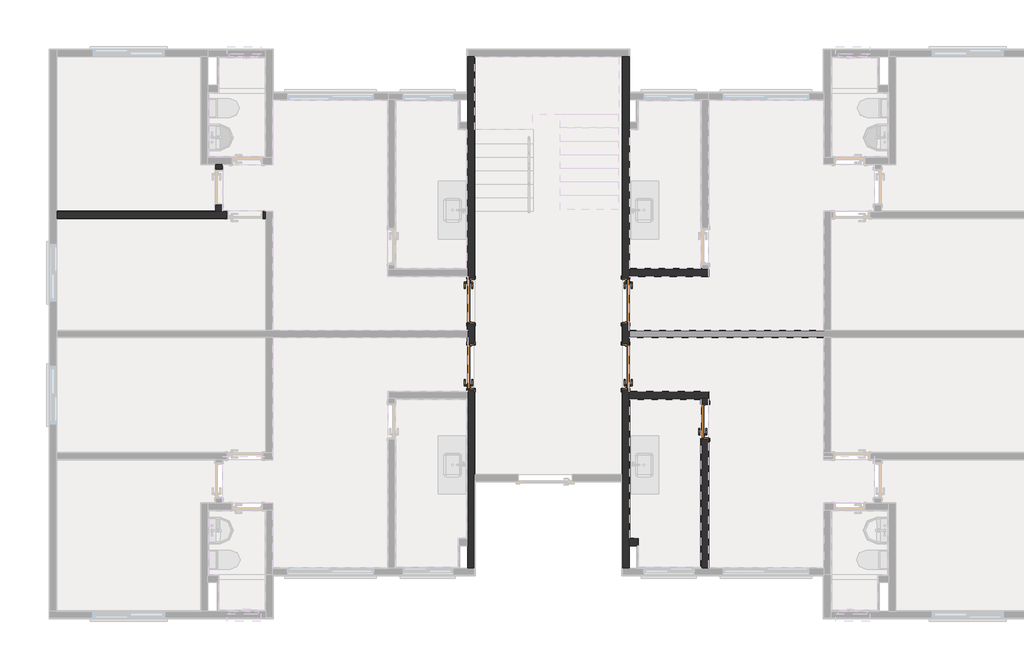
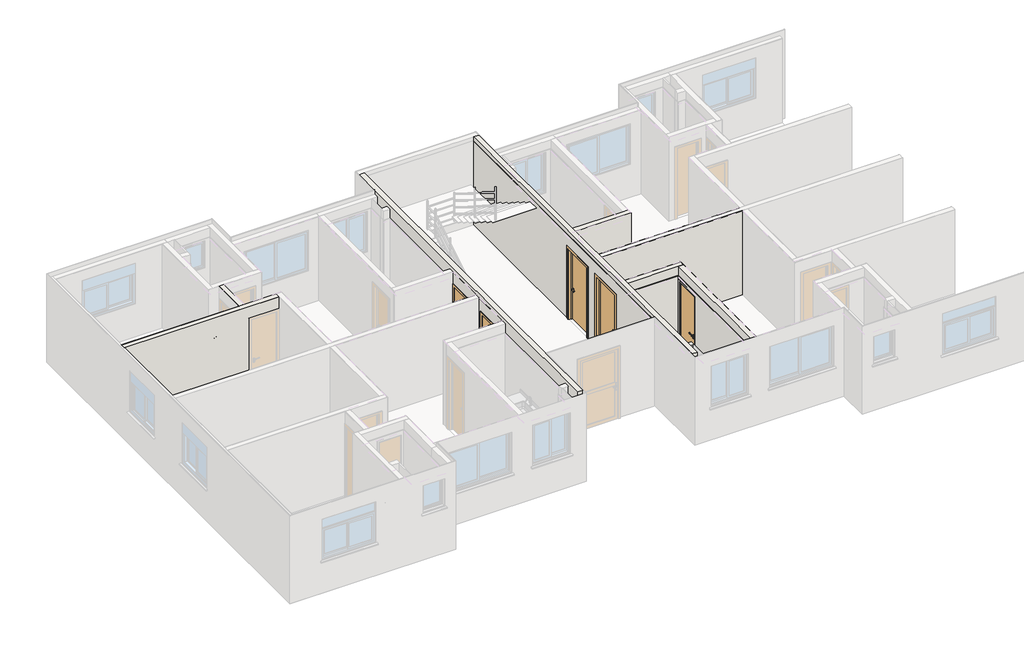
# One storey, part 4 of 11: 27 walls, 5 doors.
"""IFC4 building model written with IfcOpenShell, lengths in millimetres."""

from ifc_helpers import new_model, si_unit, frame, origin, origin_with_axes, place, context, project, spatial, polyline, outline, extrude, faceted_brep, transform, mapped, element, save
from components import porta_de_madeira_interna_70_x_210_porta_de_madeira_interna_d0067c94, porta_de_madeira_interna_90x210_porta_de_madeira_interna_90_f8e7363e, porta_de_madeira_interna_90x210_porta_de_madeira_interna_90_f331fdd0

model = new_model("IFC4")

# Units and contexts
model_context = context("Model", 3, world=origin())
ifc_project = project(units=[si_unit("LENGTHUNIT", "METRE", prefix="MILLI")], contexts=[model_context])

# Site, building, storey
site = spatial("IfcSite", under=ifc_project)
building = spatial("IfcBuilding", under=site)
storey = spatial("IfcBuildingStorey", under=building, Name="Térreo", Elevation=0.0)

# Doors
placement = place(None, origin())
porta_de_madeira_interna_70_x_210_porta_de_madeira_interna_shape = porta_de_madeira_interna_70_x_210_porta_de_madeira_interna_d0067c94(model_context)
element("IfcDoor", 1, ObjectType="Porta de Madeira Interna 70 x 210 : Porta de Madeira Interna 70 x 210", at=placement, inside=storey, context=model_context, shape_type="MappedRepresentation", body=[
    mapped(porta_de_madeira_interna_70_x_210_porta_de_madeira_interna_shape, transform((13673.8210213, 4578.6603139, 0.0), x_axis=(0.0, 1.0, 0.0), y_axis=(-1.0, 0.0, 0.0), z_axis=(0.0, 0.0, 1.0))),
])
porta_de_madeira_interna_90x210_porta_de_madeira_interna_90_shape = porta_de_madeira_interna_90x210_porta_de_madeira_interna_90_f8e7363e(model_context)
element("IfcDoor", 2, ObjectType="Porta de Madeira Interna 90x210 : Porta de Madeira Interna 90 x 210", at=placement, inside=storey, context=model_context, shape_type="MappedRepresentation", body=[
    mapped(porta_de_madeira_interna_90x210_porta_de_madeira_interna_90_shape, transform((8796.8213008, 7085.0103139, 0.0), x_axis=(0.0, -1.0, 0.0), y_axis=(1.0, 0.0, 0.0), z_axis=(0.0, 0.0, 1.0))),
])
element("IfcDoor", 3, ObjectType="Porta de Madeira Interna 90x210 : Porta de Madeira Interna 90 x 210", at=placement, inside=storey, context=model_context, shape_type="MappedRepresentation", body=[
    mapped(porta_de_madeira_interna_90x210_porta_de_madeira_interna_90_shape, transform((12023.1734066, 5715.0103139, 0.0), x_axis=(0.0, 1.0, 0.0), y_axis=(-1.0, 0.0, 0.0), z_axis=(0.0, 0.0, 1.0))),
])
porta_de_madeira_interna_90x210_porta_de_madeira_interna_90_2_shape = porta_de_madeira_interna_90x210_porta_de_madeira_interna_90_f331fdd0(model_context)
element("IfcDoor", 4, ObjectType="Porta de Madeira Interna 90x210 : Porta de Madeira Interna 90 x 210", at=placement, inside=storey, context=model_context, shape_type="MappedRepresentation", body=[
    mapped(porta_de_madeira_interna_90x210_porta_de_madeira_interna_90_2_shape, transform((8796.8213008, 5715.0103139, 0.0), x_axis=(0.0, 1.0, 0.0), y_axis=(-1.0, 0.0, 0.0), z_axis=(0.0, 0.0, 1.0))),
])
element("IfcDoor", 5, ObjectType="Porta de Madeira Interna 90x210 : Porta de Madeira Interna 90 x 210", at=placement, inside=storey, context=model_context, shape_type="MappedRepresentation", body=[
    mapped(porta_de_madeira_interna_90x210_porta_de_madeira_interna_90_2_shape, transform((12023.1734066, 7085.0103139, 0.0), x_axis=(0.0, -1.0, 0.0), y_axis=(1.0, 0.0, 0.0), z_axis=(0.0, 0.0, 1.0))),
])

# Walls
element("IfcWall", 6, ObjectType="Alvenaria Estrutural", at=placement, inside=storey, context=model_context, shape_type="Brep", body=[
    faceted_brep([(3619.9980641, 9930.0238664, 2510.0), (3619.9980641, 9924.0238664, 2510.0), (3619.9980641, 8956.0244803, 2510.0), (3619.9980641, 8950.0244803, 2510.0), (3619.9980641, 8950.0244803, 0.0), (3619.9980641, 8956.0244803, 0.0), (3619.9980641, 9082.0248023, 0.0), (3619.9980641, 9082.0248023, 2125.0), (3619.9980641, 9832.0248023, 2125.0), (3619.9980641, 9832.0248023, 0.0), (3619.9980641, 9924.0238664, 0.0), (3619.9980641, 9930.0238664, 0.0), (3479.9980641, 8950.0244803, 2510.0), (3479.9980641, 9924.0238664, 2510.0), (3479.9980641, 9930.0238664, 2510.0), (3479.9980641, 9930.0238664, 0.0), (3479.9980641, 9924.0238664, 0.0), (3479.9980641, 9832.0248023, 0.0), (3479.9980641, 9832.0248023, 2125.0), (3479.9980641, 9082.0248023, 2125.0), (3479.9980641, 9082.0248023, 0.0), (3479.9980641, 8950.0244803, 0.0)], [[[0, 1, 2, 3, 4, 5, 6, 7, 8, 9, 10, 11]], [[12, 13, 14, 15, 16, 17, 18, 19, 20, 21]], [[5, 4, 21, 20, 6]], [[1, 0, 14, 13, 12, 3, 2]], [[7, 6, 20, 19]], [[8, 7, 19, 18]], [[9, 8, 18, 17]], [[4, 3, 12, 21]], [[0, 11, 15, 14]], [[10, 9, 17, 16, 15, 11]]]),
    faceted_brep([(3619.9980641, 9924.0238664, 2510.0), (3619.9980641, 9930.0238664, 2510.0), (3479.9980641, 9930.0238664, 2510.0), (3479.9980641, 9924.0238664, 2510.0), (3479.9980641, 8950.0244803, 2510.0), (3619.9980641, 8950.0244803, 2510.0), (3619.9980641, 8956.0244803, 2510.0), (3619.9980641, 9082.0248023, 2125.0), (3619.9980641, 9082.0248023, 0.0), (3479.9980641, 9082.0248023, 0.0), (3479.9980641, 9082.0248023, 2125.0), (3619.9980641, 9832.0248023, 2125.0), (3479.9980641, 9832.0248023, 2125.0), (3619.9980641, 9832.0248023, 0.0), (3479.9980641, 9832.0248023, 0.0), (3619.9980641, 8950.0244803, 0.0), (3619.9980641, 8956.0244803, 0.0), (3619.9980641, 9924.0238664, 0.0), (3619.9980641, 9930.0238664, 0.0), (3479.9980641, 9930.0238664, 0.0), (3479.9980641, 9924.0238664, 0.0), (3479.9980641, 8950.0244803, 0.0)], [[[0, 1, 2, 3, 4, 5, 6]], [[7, 8, 9, 10]], [[11, 7, 10, 12]], [[13, 11, 12, 14]], [[1, 0, 6, 5, 15, 16, 8, 7, 11, 13, 17, 18]], [[4, 3, 2, 19, 20, 14, 12, 10, 9, 21]], [[16, 15, 21, 9, 8]], [[15, 5, 4, 21]], [[1, 18, 19, 2]], [[17, 13, 14, 20, 19, 18]]]),
])
element("IfcWall", 7, ObjectType="Alvenaria Estrutural", at=placement, inside=storey, context=model_context, shape_type="Brep", body=[
    faceted_brep([(169.9991825, 8950.0244803, 2510.0), (175.9991825, 8950.0244803, 2510.0), (3473.9980641, 8950.0244803, 2510.0), (3479.9980641, 8950.0244803, 2510.0), (3619.9980641, 8950.0244803, 2510.0), (3625.9980641, 8950.0244803, 2510.0), (4529.9996867, 8950.0244803, 2510.0), (4529.9996867, 8950.0244803, 0.0), (4467.999908, 8950.0244803, 0.0), (4467.999908, 8950.0244803, 2125.0), (3717.999908, 8950.0244803, 2125.0), (3717.999908, 8950.0244803, 0.0), (3625.9980641, 8950.0244803, 0.0), (3619.9980641, 8950.0244803, 0.0), (3479.9980641, 8950.0244803, 0.0), (3473.9980641, 8950.0244803, 0.0), (175.9991825, 8950.0244803, 0.0), (169.9991825, 8950.0244803, 0.0), (4529.9996867, 8810.0244803, 2510.0), (4523.9996867, 8810.0244803, 2510.0), (175.9991825, 8810.0244803, 2510.0), (169.9991825, 8810.0244803, 2510.0), (169.9991825, 8810.0244803, 0.0), (175.9991825, 8810.0244803, 0.0), (3717.999908, 8810.0244803, 0.0), (3717.999908, 8810.0244803, 2125.0), (4467.999908, 8810.0244803, 2125.0), (4467.999908, 8810.0244803, 0.0), (4523.9996867, 8810.0244803, 0.0), (4529.9996867, 8810.0244803, 0.0)], [[[0, 1, 2, 3, 4, 5, 6, 7, 8, 9, 10, 11, 12, 13, 14, 15, 16, 17]], [[18, 19, 20, 21, 22, 23, 24, 25, 26, 27, 28, 29]], [[8, 7, 29, 28, 27]], [[1, 0, 21, 20, 19, 18, 6, 5, 4, 3, 2]], [[9, 8, 27, 26]], [[10, 9, 26, 25]], [[11, 10, 25, 24]], [[7, 6, 18, 29]], [[0, 17, 22, 21]], [[12, 11, 24, 23, 22, 17, 16, 15, 14, 13]]]),
])
element("IfcWall", 8, ObjectType="Alvenaria Estrutural", at=placement, inside=storey, context=model_context, shape_type="Brep", body=[
    faceted_brep([(8729.9963008, 12179.9995833, 0.0), (8729.9963008, 12179.9995833, 10.0), (8729.9963008, 12179.9995833, 2520.0), (8729.9963008, 12179.9995833, 2630.0), (8869.9963008, 12179.9995833, 2630.0), (8869.9963008, 12179.9995833, 2520.0), (8869.9963008, 12179.9995833, 2510.0), (8869.9963008, 12179.9995833, 10.0), (8869.9963008, 12179.9995833, 0.0), (8729.9963008, 11436.0223004, 0.0), (8869.9963008, 7560.0103139, 0.0), (8729.9963008, 7560.0103139, 0.0), (8729.9963008, 7606.3603139, 0.0), (8729.9963008, 7746.3603139, 0.0), (8729.9963008, 7766.3603139, 0.0), (8729.9963008, 10655.0073729, 0.0), (8729.9963008, 10675.0073729, 0.0), (8729.9963008, 10815.0073729, 0.0), (8729.9963008, 11420.0223004, 0.0), (8729.9963008, 7560.0103139, 10.0), (8869.9963008, 7560.0103139, 10.0), (8869.9963008, 7560.0103139, 2125.0), (8729.9963008, 7560.0103139, 2125.0), (8729.9963008, 6610.0103139, 0.0), (8729.9963008, 6610.0103139, 10.0), (8729.9963008, 6610.0103139, 2125.0), (8869.9963008, 6610.0103139, 2125.0), (8869.9963008, 6610.0103139, 10.0), (8869.9963008, 6610.0103139, 0.0), (8729.9963008, 6476.0103139, 0.0), (8869.9963008, 6190.0103139, 0.0), (8729.9963008, 6190.0103139, 0.0), (8729.9963008, 6324.0103139, 0.0), (8729.9963008, 6330.0103139, 0.0), (8729.9963008, 6470.0103139, 0.0), (8729.9963008, 6190.0103139, 10.0), (8869.9963008, 6190.0103139, 10.0), (8869.9963008, 6190.0103139, 2125.0), (8729.9963008, 6190.0103139, 2125.0), (8729.9963008, 5240.0103139, 0.0), (8729.9963008, 5240.0103139, 10.0), (8729.9963008, 5240.0103139, 2125.0), (8869.9963008, 5240.0103139, 2125.0), (8869.9963008, 5240.0103139, 10.0), (8869.9963008, 5240.0103139, 0.0), (8729.9963008, 5193.6603139, 0.0), (8869.9963008, 3474.9995833, 0.0), (8869.9963008, 3470.00443, 0.0), (8869.9963008, 3330.00443, 0.0), (8869.9963008, 1519.9983274, 0.0), (8729.9963008, 1519.9983274, 0.0), (8729.9963008, 1985.0132549, 0.0), (8729.9963008, 2125.0132549, 0.0), (8729.9963008, 2145.0132549, 0.0), (8729.9963008, 5033.6603139, 0.0), (8729.9963008, 5053.6603139, 0.0), (8729.9963008, 1519.9983274, 10.0), (8869.9963008, 1519.9983274, 10.0), (8869.9963008, 1519.9983274, 2520.0), (8869.9963008, 1519.9983274, 2630.0), (8729.9963008, 1519.9983274, 2630.0), (8729.9963008, 1519.9983274, 2520.0), (8729.9963008, 11420.0223004, 2630.0), (8729.9963008, 11436.0223004, 2630.0)], [[[0, 1, 2, 3, 4, 5, 6, 7, 8]], [[9, 0, 8, 10, 11, 12, 13, 14, 15, 16, 17, 18]], [[19, 11, 10, 20, 21, 22]], [[23, 24, 25, 26, 27, 28]], [[29, 23, 28, 30, 31, 32, 33, 34]], [[35, 31, 30, 36, 37, 38]], [[39, 40, 41, 42, 43, 44]], [[45, 39, 44, 46, 47, 48, 49, 50, 51, 52, 53, 54, 55]], [[56, 50, 49, 57, 58, 59, 60, 61]], [[57, 49, 48, 47, 46, 44, 43, 42, 37, 36, 30, 28, 27, 26, 21, 20, 10, 8, 7, 6, 5, 4, 59, 58]], [[25, 22, 21, 26]], [[41, 38, 37, 42]], [[62, 60, 59, 4, 3, 63]], [[40, 39, 45, 55, 54, 53, 52, 51, 50, 56, 61, 60, 62, 63, 3, 2, 1, 0, 9, 18, 17, 16, 15, 14, 13, 12, 11, 19, 22, 25, 24, 23, 29, 34, 33, 32, 31, 35, 38, 41]]]),
])
element("IfcWall", 9, ObjectType="Alvenaria Estrutural", at=placement, inside=storey, context=model_context, shape_type="Brep", body=[
    faceted_brep([(11949.9984066, 12179.9995833, 0.0), (11949.9984066, 12179.9995833, 10.0), (11949.9984066, 12179.9995833, 2510.0), (11949.9984066, 12179.9995833, 2520.0), (11949.9984066, 12179.9995833, 2630.0), (12089.9984066, 12179.9995833, 2630.0), (12089.9984066, 12179.9995833, 2520.0), (12089.9984066, 12179.9995833, 2510.0), (12089.9984066, 12179.9995833, 10.0), (12089.9984066, 12179.9995833, 0.0), (11949.9984066, 12173.9995833, 0.0), (12089.9984066, 11436.0223004, 0.0), (12089.9984066, 11420.0223004, 0.0), (12089.9984066, 10815.0073729, 0.0), (12089.9984066, 10675.0073729, 0.0), (12089.9984066, 10655.0073729, 0.0), (12089.9984066, 7766.3603139, 0.0), (12089.9984066, 7746.3603139, 0.0), (12089.9984066, 7606.3603139, 0.0), (12089.9984066, 7560.0103139, 0.0), (11949.9984066, 7560.0103139, 0.0), (11949.9984066, 7560.0103139, 10.0), (12089.9984066, 7560.0103139, 10.0), (12089.9984066, 7560.0103139, 2125.0), (11949.9984066, 7560.0103139, 2125.0), (11949.9984066, 6610.0103139, 0.0), (11949.9984066, 6610.0103139, 10.0), (11949.9984066, 6610.0103139, 2125.0), (12089.9984066, 6610.0103139, 2125.0), (12089.9984066, 6610.0103139, 10.0), (12089.9984066, 6610.0103139, 0.0), (11949.9984066, 6190.0103139, 0.0), (12089.9984066, 6476.0103139, 0.0), (12089.9984066, 6470.0103139, 0.0), (12089.9984066, 6330.0103139, 0.0), (12089.9984066, 6324.0103139, 0.0), (12089.9984066, 6190.0103139, 0.0), (11949.9984066, 6190.0103139, 10.0), (12089.9984066, 6190.0103139, 10.0), (12089.9984066, 6190.0103139, 2125.0), (11949.9984066, 6190.0103139, 2125.0), (11949.9984066, 5240.0103139, 0.0), (11949.9984066, 5240.0103139, 10.0), (11949.9984066, 5240.0103139, 2125.0), (12089.9984066, 5240.0103139, 2125.0), (12089.9984066, 5240.0103139, 10.0), (12089.9984066, 5240.0103139, 0.0), (11949.9984066, 3468.9995833, 0.0), (12089.9984066, 5193.6603139, 0.0), (12089.9984066, 5053.6603139, 0.0), (12089.9984066, 5033.6603139, 0.0), (12089.9984066, 2145.0132549, 0.0), (12089.9984066, 2125.0132549, 0.0), (12089.9984066, 1985.0132549, 0.0), (12089.9984066, 1519.9983274, 0.0), (11949.9984066, 1519.9983274, 0.0), (11949.9984066, 3314.00443, 0.0), (11949.9984066, 3330.00443, 0.0), (11949.9984066, 1519.9983274, 10.0), (12089.9984066, 1519.9983274, 10.0), (12089.9984066, 1519.9983274, 2510.0), (12089.9984066, 1519.9983274, 2520.0), (12089.9984066, 1519.9983274, 2630.0), (11949.9984066, 1519.9983274, 2630.0), (11949.9984066, 1519.9983274, 2520.0), (11949.9984066, 1519.9983274, 2510.0), (12089.9984066, 11436.0223004, 2630.0), (12089.9984066, 11420.0223004, 2630.0), (11949.9984066, 3314.00443, 2630.0), (11949.9984066, 3330.00443, 2630.0)], [[[0, 1, 2, 3, 4, 5, 6, 7, 8, 9]], [[10, 0, 9, 11, 12, 13, 14, 15, 16, 17, 18, 19, 20]], [[21, 20, 19, 22, 23, 24]], [[25, 26, 27, 28, 29, 30]], [[31, 25, 30, 32, 33, 34, 35, 36]], [[37, 31, 36, 38, 39, 40]], [[41, 42, 43, 44, 45, 46]], [[47, 41, 46, 48, 49, 50, 51, 52, 53, 54, 55, 56, 57]], [[58, 55, 54, 59, 60, 61, 62, 63, 64, 65]], [[59, 54, 53, 52, 51, 50, 49, 48, 46, 45, 44, 39, 38, 36, 35, 34, 33, 32, 30, 29, 28, 23, 22, 19, 18, 17, 16, 15, 14, 13, 12, 11, 9, 8, 7, 6, 5, 66, 67, 62, 61, 60]], [[27, 24, 23, 28]], [[43, 40, 39, 44]], [[68, 63, 62, 67, 66, 5, 4, 69]], [[42, 41, 47, 57, 56, 55, 58, 65, 64, 63, 68, 69, 4, 3, 2, 1, 0, 10, 20, 21, 24, 27, 26, 25, 31, 37, 40, 43]]]),
])
element("IfcWall", 10, ObjectType="Alvenaria Estrutural", at=placement, inside=storey, context=model_context, shape_type="Brep", body=[
    faceted_brep([(12089.9984066, 1985.0132549, 0.0), (12249.9983974, 1985.0132549, 0.0), (12272.9983974, 1985.0132549, 0.0), (12272.9983974, 1985.0132549, 2510.0), (12249.9983974, 1985.0132549, 2510.0), (12089.9984066, 1985.0132549, 2510.0), (12089.9984066, 2125.0132549, 0.0), (12089.9984066, 2125.0132549, 2250.0), (12089.9984066, 2125.0132549, 2510.0), (12272.9983974, 2125.0132549, 2510.0), (12272.9983974, 2125.0132549, 0.0), (12109.9984066, 2125.0132549, 0.0)], [[[0, 1, 2, 3, 4, 5]], [[6, 7, 8, 9, 10, 11]], [[1, 0, 6, 11, 10, 2]], [[4, 3, 9, 8, 5]], [[3, 2, 10, 9]], [[0, 5, 8, 7, 6]]]),
    faceted_brep([(12089.9984066, 1985.0132549, 0.0), (12249.9983974, 1985.0132549, 0.0), (12272.9983974, 1985.0132549, 0.0), (12272.9983974, 1985.0132549, 2510.0), (12249.9983974, 1985.0132549, 2510.0), (12089.9984066, 1985.0132549, 2510.0), (12089.9984066, 2125.0132549, 0.0), (12109.9984066, 2125.0132549, 0.0), (12272.9983974, 2125.0132549, 0.0), (12272.9983974, 2125.0132549, 2510.0), (12089.9984066, 2125.0132549, 2510.0), (12089.9984066, 2125.0132549, 2250.0)], [[[0, 1, 2, 3, 4, 5]], [[1, 0, 6, 7, 8, 2]], [[4, 3, 9, 10, 5]], [[6, 11, 10, 9, 8, 7]], [[3, 2, 8, 9]], [[0, 5, 10, 11, 6]]]),
])
element("IfcWall", 11, ObjectType="Alvenaria Estrutural", at=placement, inside=storey, context=model_context, shape_type="Brep", body=[
    faceted_brep([(12089.9984066, 5053.6603139, 0.0), (12109.9984066, 5053.6603139, 0.0), (13586.992975, 5053.6603139, 0.0), (13606.9960213, 5053.6603139, 0.0), (13746.9960213, 5053.6603139, 0.0), (13746.9960213, 5053.6603139, 2510.0), (13606.9960213, 5053.6603139, 2510.0), (12089.9984066, 5053.6603139, 2510.0), (12089.9984066, 5053.6603139, 2250.0), (12089.9984066, 5193.6603139, 0.0), (12089.9984066, 5193.6603139, 2510.0), (12095.9984066, 5193.6603139, 2510.0), (13746.9960213, 5193.6603139, 2510.0), (13746.9960213, 5193.6603139, 0.0), (12095.9984066, 5193.6603139, 0.0)], [[[0, 1, 2, 3, 4, 5, 6, 7, 8]], [[9, 10, 11, 12, 13, 14]], [[1, 0, 9, 14, 13, 4, 3, 2]], [[6, 5, 12, 11, 10, 7]], [[5, 4, 13, 12]], [[8, 7, 10, 9, 0]]]),
])
element("IfcWall", 12, ObjectType="Alvenaria Estrutural", at=placement, inside=storey, context=model_context, shape_type="Brep", body=[
    faceted_brep([(13746.9960213, 1519.9983274, 0.0), (13746.9960213, 1519.9983274, 10.0), (13746.9960213, 1519.9983274, 2510.0), (13606.9960213, 1519.9983274, 2510.0), (13606.9960213, 1519.9983274, 2250.0), (13606.9960213, 1519.9983274, 10.0), (13606.9960213, 1519.9983274, 0.0), (13746.9960213, 1525.9983274, 0.0), (13606.9960213, 1539.9983274, 0.0), (13606.9960213, 4203.6603139, 0.0), (13746.9960213, 4203.6603139, 0.0), (13746.9960213, 4203.6603139, 10.0), (13606.9960213, 4203.6603139, 10.0), (13606.9960213, 4203.6603139, 2125.0), (13746.9960213, 4203.6603139, 2125.0), (13746.9960213, 4953.6603139, 0.0), (13746.9960213, 4953.6603139, 10.0), (13746.9960213, 4953.6603139, 2125.0), (13606.9960213, 4953.6603139, 2125.0), (13606.9960213, 4953.6603139, 10.0), (13606.9960213, 4953.6603139, 0.0), (13746.9960213, 5053.6603139, 0.0), (13606.9960213, 5033.6603139, 0.0), (13606.9960213, 5053.6603139, 0.0), (13746.9960213, 5053.6603139, 10.0), (13606.9960213, 5053.6603139, 10.0), (13606.9960213, 5053.6603139, 2250.0), (13606.9960213, 5053.6603139, 2510.0), (13746.9960213, 5053.6603139, 2510.0), (13746.9960213, 1525.9983274, 2510.0)], [[[0, 1, 2, 3, 4, 5, 6]], [[7, 0, 6, 8, 9, 10]], [[11, 10, 9, 12, 13, 14]], [[15, 16, 17, 18, 19, 20]], [[21, 15, 20, 22, 23]], [[24, 21, 23, 25, 26, 27, 28]], [[25, 23, 22, 20, 19, 18, 13, 12, 9, 8, 6, 5, 4, 3, 27, 26]], [[29, 28, 27, 3, 2]], [[17, 14, 13, 18]], [[16, 15, 21, 24, 28, 29, 2, 1, 0, 7, 10, 11, 14, 17]]]),
])
element("IfcWall", 13, ObjectType="Alvenaria Estrutural", at=placement, inside=storey, context=model_context, shape_type="Brep", body=[
    faceted_brep([(12089.9984066, 7606.3603139, 0.0), (12095.9984066, 7606.3603139, 0.0), (13746.9960213, 7606.3603139, 0.0), (13746.9960213, 7606.3603139, 2510.0), (12095.9984066, 7606.3603139, 2510.0), (12089.9984066, 7606.3603139, 2510.0), (12089.9984066, 7746.3603139, 0.0), (12089.9984066, 7746.3603139, 2250.0), (12089.9984066, 7746.3603139, 2510.0), (13606.9960213, 7746.3603139, 2510.0), (13746.9960213, 7746.3603139, 2510.0), (13746.9960213, 7746.3603139, 0.0), (13606.9960213, 7746.3603139, 0.0), (13586.992975, 7746.3603139, 0.0), (12109.9984066, 7746.3603139, 0.0)], [[[0, 1, 2, 3, 4, 5]], [[6, 7, 8, 9, 10, 11, 12, 13, 14]], [[1, 0, 6, 14, 13, 12, 11, 2]], [[4, 3, 10, 9, 8, 5]], [[3, 2, 11, 10]], [[0, 5, 8, 7, 6]]]),
])
element("IfcWall", 14, ObjectType="Azulejo", at=placement, inside=storey, context=model_context, shape_type="Brep", body=[
    faceted_brep([(13586.992975, 1519.9983274, 0.0), (13586.992975, 4203.6603139, 0.0), (13596.992975, 4203.6603139, 0.0), (13596.992975, 1519.9983274, 0.0), (13596.992975, 1519.9983274, 10.0), (13596.992975, 1519.9983274, 2250.0), (13586.992975, 1519.9983274, 2250.0), (13586.992975, 1519.9983274, 10.0), (13586.992975, 5053.6603139, 0.0), (13586.992975, 5053.6603139, 10.0), (13586.992975, 5053.6603139, 2250.0), (13596.992975, 5053.6603139, 2250.0), (13596.992975, 5053.6603139, 10.0), (13596.992975, 5053.6603139, 0.0), (13596.992975, 4953.6603139, 0.0), (13586.992975, 4953.6603139, 0.0), (13586.992975, 4953.6603139, 10.0), (13596.992975, 4953.6603139, 10.0), (13596.992975, 4953.6603139, 2125.0), (13586.992975, 4953.6603139, 2125.0), (13586.992975, 4203.6603139, 10.0), (13586.992975, 4203.6603139, 2125.0), (13596.992975, 4203.6603139, 2125.0), (13596.992975, 4203.6603139, 10.0)], [[[0, 1, 2, 3]], [[0, 3, 4, 5, 6, 7]], [[8, 9, 10, 11, 12, 13]], [[14, 15, 8, 13]], [[16, 15, 14, 17, 18, 19]], [[2, 1, 20, 21, 22, 23]], [[3, 2, 23, 22, 18, 17, 14, 13, 12, 11, 5, 4]], [[10, 6, 5, 11]], [[21, 19, 18, 22]], [[1, 0, 7, 6, 10, 9, 8, 15, 16, 19, 21, 20]]]),
    faceted_brep([(13596.992975, 4203.6603139, 0.0), (13596.992975, 1519.9983274, 0.0), (13596.992975, 1519.9983274, 10.0), (13596.992975, 1519.9983274, 2250.0), (13596.992975, 5053.6603139, 2250.0), (13596.992975, 5053.6603139, 10.0), (13596.992975, 5053.6603139, 0.0), (13596.992975, 4953.6603139, 0.0), (13596.992975, 4953.6603139, 10.0), (13596.992975, 4953.6603139, 2125.0), (13596.992975, 4203.6603139, 2125.0), (13596.992975, 4203.6603139, 10.0), (13606.992975, 4203.6603139, 0.0), (13606.992975, 1519.9983274, 0.0), (13606.992975, 1519.9983274, 10.0), (13606.992975, 1519.9983274, 2250.0), (13606.992975, 5053.6603139, 2250.0), (13606.992975, 5053.6603139, 10.0), (13606.992975, 5053.6603139, 0.0), (13606.992975, 4953.6603139, 0.0), (13606.992975, 4953.6603139, 10.0), (13606.992975, 4953.6603139, 2125.0), (13606.992975, 4203.6603139, 2125.0), (13606.992975, 4203.6603139, 10.0)], [[[0, 1, 2, 3, 4, 5, 6, 7, 8, 9, 10, 11]], [[1, 0, 12, 13]], [[2, 1, 13, 14, 15, 3]], [[6, 5, 4, 16, 17, 18]], [[7, 6, 18, 19]], [[8, 7, 19, 20, 21, 9]], [[0, 11, 10, 22, 23, 12]], [[14, 13, 12, 23, 22, 21, 20, 19, 18, 17, 16, 15]], [[4, 3, 15, 16]], [[10, 9, 21, 22]]]),
])
element("IfcWall", 15, ObjectType="Azulejo", at=placement, inside=storey, context=model_context, shape_type="SweptSolid", body=[
    extrude(outline(polyline([(13606.9960213, 5033.6603139), (12089.9984066, 5033.6603139), (12089.9984066, 5043.6603139), (13606.9960213, 5043.6603139), (13606.9960213, 5033.6603139)])), origin_with_axes(), (0.0, 0.0, 1.0), 2250.0),
    extrude(outline(polyline([(12089.9984066, 5053.6603139), (13606.9960213, 5053.6603139), (13606.9960213, 5043.6603139), (12089.9984066, 5043.6603139), (12089.9984066, 5053.6603139)])), origin_with_axes(), (0.0, 0.0, 1.0), 2250.0),
])
element("IfcWall", 16, ObjectType="Azulejo", at=placement, inside=storey, context=model_context, shape_type="SweptSolid", body=[
    extrude(outline(polyline([(12109.9984066, 5053.6603139), (12109.9984066, 2125.0132549), (12099.9984066, 2125.0132549), (12099.9984066, 5053.6603139), (12109.9984066, 5053.6603139)])), origin_with_axes(), (0.0, 0.0, 1.0), 2250.0),
    extrude(outline(polyline([(12089.9984066, 2125.0132549), (12089.9984066, 5053.6603139), (12099.9984066, 5053.6603139), (12099.9984066, 2125.0132549), (12089.9984066, 2125.0132549)])), origin_with_axes(), (0.0, 0.0, 1.0), 2250.0),
])
element("IfcWall", 17, ObjectType="Azulejo", at=placement, inside=storey, context=model_context, shape_type="SolidModel", body=[
    extrude(outline(polyline([(12089.9984066, 2145.0132549), (12282.9983974, 2145.0132549), (12282.9983974, 2135.0132549), (12089.9984066, 2135.0132549), (12089.9984066, 2145.0132549)])), origin_with_axes(), (0.0, 0.0, 1.0), 2250.0),
    faceted_brep([(12272.9983974, 2135.0132549, 0.0), (12089.9984066, 2135.0132549, 0.0), (12089.9984066, 2135.0132549, 2250.0), (12272.9983974, 2135.0132549, 2250.0), (12272.9983974, 2125.0132549, 0.0), (12272.9983974, 2125.0132549, 2250.0), (12262.9983974, 2125.0132549, 2250.0), (12089.9984066, 2125.0132549, 2250.0), (12089.9984066, 2125.0132549, 0.0), (12262.9983974, 2125.0132549, 0.0)], [[[0, 1, 2, 3]], [[4, 5, 6, 7, 8, 9]], [[9, 8, 1, 0, 4]], [[6, 5, 3, 2, 7]], [[8, 7, 2, 1]], [[5, 4, 0, 3]]]),
])
element("IfcWall", 18, ObjectType="Azulejo", at=placement, inside=storey, context=model_context, shape_type="SweptSolid", body=[
    extrude(outline(polyline([(12282.9983974, 2135.0132549), (12282.9983974, 1985.0132549), (12272.9983974, 1985.0132549), (12272.9983974, 2135.0132549), (12282.9983974, 2135.0132549)])), origin_with_axes(), (0.0, 0.0, 1.0), 2250.0),
    extrude(outline(polyline([(12262.9983974, 1985.0132549), (12262.9983974, 2125.0132549), (12272.9983974, 2125.0132549), (12272.9983974, 1985.0132549), (12262.9983974, 1985.0132549)])), origin_with_axes(), (0.0, 0.0, 1.0), 2250.0),
])
element("IfcWall", 19, ObjectType="Azulejo", at=placement, inside=storey, context=model_context, shape_type="SweptSolid", body=[
    extrude(outline(polyline([(12089.9984066, 7766.3603139), (13606.9960213, 7766.3603139), (13606.9960213, 7756.3603139), (12089.9984066, 7756.3603139), (12089.9984066, 7766.3603139)])), origin_with_axes(), (0.0, 0.0, 1.0), 2250.0),
    extrude(outline(polyline([(13606.9960213, 7746.3603139), (12089.9984066, 7746.3603139), (12089.9984066, 7756.3603139), (13606.9960213, 7756.3603139), (13606.9960213, 7746.3603139)])), origin_with_axes(), (0.0, 0.0, 1.0), 2250.0),
])
element("IfcWall", 20, ObjectType="Gesso Liso + Pintura", at=placement, inside=storey, context=model_context, shape_type="SweptSolid", body=[
    extrude(outline(polyline([(2510.0, 4529.9996867), (2510.0, 169.9991825), (0.0, 169.9991825), (0.0, 3717.999908), (2125.0, 3717.999908), (2125.0, 4467.999908), (0.0, 4467.999908), (0.0, 4529.9996867), (2510.0, 4529.9996867)])), frame((0.0, 8804.0244803, 0.0), z_axis=(0.0, 1.0, 0.0), x_axis=(0.0, 0.0, 1.0)), (0.0, 0.0, 1.0), 1.0),
    extrude(outline(polyline([(0.0, 169.9991825), (0.0, 3717.999908), (2125.0, 3717.999908), (2125.0, 4467.999908), (0.0, 4467.999908), (0.0, 4529.9996867), (2510.0, 4529.9996867), (2510.0, 169.9991825), (0.0, 169.9991825)])), frame((0.0, 8805.0244803, 0.0), z_axis=(0.0, 1.0, 0.0), x_axis=(0.0, 0.0, 1.0)), (0.0, 0.0, 1.0), 5.0),
])
element("IfcWall", 21, ObjectType="Gesso Liso + Pintura", at=placement, inside=storey, context=model_context, shape_type="SweptSolid", body=[
    extrude(outline(polyline([(169.9991825, 8956.0244803), (3473.9980641, 8956.0244803), (3473.9980641, 8955.0244803), (169.9991825, 8955.0244803), (169.9991825, 8956.0244803)])), origin_with_axes(), (0.0, 0.0, 1.0), 2510.0),
    extrude(outline(polyline([(3474.9980641, 8950.0244803), (169.9991825, 8950.0244803), (169.9991825, 8955.0244803), (3474.9980641, 8955.0244803), (3474.9980641, 8950.0244803)])), origin_with_axes(), (0.0, 0.0, 1.0), 2510.0),
])
element("IfcWall", 22, ObjectType="Gesso Liso + Pintura", at=placement, inside=storey, context=model_context, shape_type="SolidModel", body=[
    faceted_brep([(8723.9963008, 6190.0103139, 0.0), (8723.9963008, 6330.0103139, 0.0), (8724.9963008, 6330.0103139, 0.0), (8724.9963008, 6190.0103139, 0.0), (8724.9963008, 6330.0103139, 2510.0), (8723.9963008, 6330.0103139, 2510.0), (8723.9963008, 5199.6603139, 2510.0), (8723.9963008, 5198.6603139, 2510.0), (8724.9963008, 5198.6603139, 2510.0), (8724.9963008, 6190.0103139, 2125.0), (8723.9963008, 6190.0103139, 2125.0), (8724.9963008, 5240.0103139, 2125.0), (8723.9963008, 5240.0103139, 2125.0), (8724.9963008, 5240.0103139, 0.0), (8723.9963008, 5240.0103139, 0.0), (8724.9963008, 5198.6603139, 0.0), (8723.9963008, 5198.6603139, 0.0), (8723.9963008, 5199.6603139, 0.0)], [[[0, 1, 2, 3]], [[4, 5, 6, 7, 8]], [[0, 3, 9, 10]], [[10, 9, 11, 12]], [[12, 11, 13, 14]], [[2, 1, 5, 4]], [[14, 13, 15, 16, 17]], [[3, 2, 4, 8, 15, 13, 11, 9]], [[1, 0, 10, 12, 14, 17, 16, 7, 6, 5]], [[8, 7, 16, 15]]]),
    extrude(outline(polyline([(6330.0103139, 0.0), (6190.0103139, 0.0), (6190.0103139, 2125.0), (5240.0103139, 2125.0), (5240.0103139, 0.0), (5193.6603139, 0.0), (5193.6603139, 2510.0), (6330.0103139, 2510.0), (6330.0103139, 0.0)])), frame((8724.9963008, 0.0, 0.0), z_axis=(1.0, 0.0, 0.0), x_axis=(0.0, 1.0, 0.0)), (0.0, 0.0, 1.0), 5.0),
])
element("IfcWall", 23, ObjectType="Gesso Liso + Pintura", at=placement, inside=storey, context=model_context, shape_type="SolidModel", body=[
    faceted_brep([(8723.9963008, 6470.0103139, 0.0), (8723.9963008, 6610.0103139, 0.0), (8724.9963008, 6610.0103139, 0.0), (8724.9963008, 6470.0103139, 0.0), (8723.9963008, 7600.3603139, 2510.0), (8723.9963008, 6470.0103139, 2510.0), (8724.9963008, 6470.0103139, 2510.0), (8724.9963008, 7601.3603139, 2510.0), (8723.9963008, 7601.3603139, 2510.0), (8723.9963008, 6610.0103139, 2125.0), (8724.9963008, 6610.0103139, 2125.0), (8723.9963008, 7560.0103139, 2125.0), (8724.9963008, 7560.0103139, 2125.0), (8723.9963008, 7560.0103139, 0.0), (8724.9963008, 7560.0103139, 0.0), (8723.9963008, 7600.3603139, 0.0), (8723.9963008, 7601.3603139, 0.0), (8724.9963008, 7601.3603139, 0.0)], [[[0, 1, 2, 3]], [[4, 5, 6, 7, 8]], [[2, 1, 9, 10]], [[10, 9, 11, 12]], [[12, 11, 13, 14]], [[0, 3, 6, 5]], [[14, 13, 15, 16, 17]], [[3, 2, 10, 12, 14, 17, 7, 6]], [[1, 0, 5, 4, 8, 16, 15, 13, 11, 9]], [[8, 7, 17, 16]]]),
    extrude(outline(polyline([(6610.0103139, 0.0), (6470.0103139, 0.0), (6470.0103139, 2510.0), (7606.3603139, 2510.0), (7606.3603139, 0.0), (7560.0103139, 0.0), (7560.0103139, 2125.0), (6610.0103139, 2125.0), (6610.0103139, 0.0)])), frame((8724.9963008, 0.0, 0.0), z_axis=(1.0, 0.0, 0.0), x_axis=(0.0, 1.0, 0.0)), (0.0, 0.0, 1.0), 5.0),
])
element("IfcWall", 24, ObjectType="Gesso Liso + Pintura", at=placement, inside=storey, context=model_context, shape_type="SweptSolid", body=[
    extrude(outline(polyline([(16149.9950207, 6324.0103139), (12089.9984066, 6324.0103139), (12089.9984066, 6325.0103139), (16149.9950207, 6325.0103139), (16149.9950207, 6324.0103139)])), origin_with_axes(), (0.0, 0.0, 1.0), 2510.0),
    extrude(outline(polyline([(12089.9984066, 6330.0103139), (16149.9950207, 6330.0103139), (16149.9950207, 6325.0103139), (12089.9984066, 6325.0103139), (12089.9984066, 6330.0103139)])), origin_with_axes(), (0.0, 0.0, 1.0), 2510.0),
])
element("IfcWall", 25, ObjectType="Gesso Liso + Pintura", at=placement, inside=storey, context=model_context, shape_type="SolidModel", body=[
    faceted_brep([(12095.9984066, 6330.0103139, 0.0), (12095.9984066, 6190.0103139, 0.0), (12094.9984066, 6190.0103139, 0.0), (12094.9984066, 6330.0103139, 0.0), (12095.9984066, 5199.6603139, 2510.0), (12095.9984066, 6330.0103139, 2510.0), (12094.9984066, 6330.0103139, 2510.0), (12094.9984066, 5198.6603139, 2510.0), (12095.9984066, 5198.6603139, 2510.0), (12095.9984066, 6190.0103139, 2125.0), (12094.9984066, 6190.0103139, 2125.0), (12095.9984066, 5240.0103139, 2125.0), (12094.9984066, 5240.0103139, 2125.0), (12095.9984066, 5240.0103139, 0.0), (12094.9984066, 5240.0103139, 0.0), (12095.9984066, 5199.6603139, 0.0), (12095.9984066, 5198.6603139, 0.0), (12094.9984066, 5198.6603139, 0.0)], [[[0, 1, 2, 3]], [[4, 5, 6, 7, 8]], [[2, 1, 9, 10]], [[10, 9, 11, 12]], [[12, 11, 13, 14]], [[0, 3, 6, 5]], [[14, 13, 15, 16, 17]], [[3, 2, 10, 12, 14, 17, 7, 6]], [[1, 0, 5, 4, 8, 16, 15, 13, 11, 9]], [[8, 7, 17, 16]]]),
    extrude(outline(polyline([(5193.6603139, 2510.0), (6330.0103139, 2510.0), (6330.0103139, 0.0), (6190.0103139, 0.0), (6190.0103139, 2125.0), (5240.0103139, 2125.0), (5240.0103139, 0.0), (5193.6603139, 0.0), (5193.6603139, 2510.0)])), frame((12089.9984066, 0.0, 0.0), z_axis=(1.0, 0.0, 0.0), x_axis=(0.0, 1.0, 0.0)), (0.0, 0.0, 1.0), 5.0),
])
element("IfcWall", 26, ObjectType="Gesso Liso + Pintura", at=placement, inside=storey, context=model_context, shape_type="SolidModel", body=[
    extrude(outline(polyline([(12095.9984066, 5199.6603139), (13752.9960213, 5199.6603139), (13752.9960213, 5198.6603139), (12095.9984066, 5198.6603139), (12095.9984066, 5199.6603139)])), origin_with_axes(), (0.0, 0.0, 1.0), 2510.0),
    faceted_brep([(13751.9960213, 5198.6603139, 0.0), (12094.9984066, 5198.6603139, 0.0), (12094.9984066, 5198.6603139, 2510.0), (13751.9960213, 5198.6603139, 2510.0), (13751.9960213, 5193.6603139, 0.0), (13751.9960213, 5193.6603139, 2510.0), (13746.9960213, 5193.6603139, 2510.0), (12094.9984066, 5193.6603139, 2510.0), (12094.9984066, 5193.6603139, 0.0), (13746.9960213, 5193.6603139, 0.0)], [[[0, 1, 2, 3]], [[4, 5, 6, 7, 8, 9]], [[9, 8, 1, 0, 4]], [[6, 5, 3, 2, 7]], [[8, 7, 2, 1]], [[5, 4, 0, 3]]]),
])
element("IfcWall", 27, ObjectType="Gesso Liso + Pintura", at=placement, inside=storey, context=model_context, shape_type="Brep", body=[
    faceted_brep([(13751.9960213, 4203.6603139, 0.0), (13752.9960213, 4203.6603139, 0.0), (13752.9960213, 1519.9983274, 0.0), (13751.9960213, 1519.9983274, 0.0), (13752.9960213, 4203.6603139, 10.0), (13751.9960213, 4203.6603139, 10.0), (13751.9960213, 4203.6603139, 2125.0), (13752.9960213, 4203.6603139, 2125.0), (13751.9960213, 4953.6603139, 0.0), (13752.9960213, 4953.6603139, 0.0), (13752.9960213, 4953.6603139, 10.0), (13752.9960213, 4953.6603139, 2125.0), (13751.9960213, 4953.6603139, 2125.0), (13751.9960213, 4953.6603139, 10.0), (13752.9960213, 5198.6603139, 0.0), (13751.9960213, 5198.6603139, 0.0), (13752.9960213, 1519.9983274, 10.0), (13752.9960213, 1519.9983274, 2510.0), (13751.9960213, 1519.9983274, 2510.0), (13751.9960213, 1519.9983274, 10.0), (13752.9960213, 5198.6603139, 10.0), (13752.9960213, 5198.6603139, 2510.0), (13751.9960213, 5198.6603139, 10.0), (13751.9960213, 5198.6603139, 2510.0)], [[[0, 1, 2, 3]], [[4, 1, 0, 5, 6, 7]], [[8, 9, 10, 11, 12, 13]], [[14, 9, 8, 15]], [[2, 16, 17, 18, 19, 3]], [[1, 4, 7, 11, 10, 9, 14, 20, 21, 17, 16, 2]], [[20, 14, 15, 22, 23, 21]], [[11, 7, 6, 12]], [[17, 21, 23, 18]], [[5, 0, 3, 19, 18, 23, 22, 15, 8, 13, 12, 6]]]),
    faceted_brep([(13751.9960213, 4953.6603139, 10.0), (13751.9960213, 4953.6603139, 0.0), (13751.9960213, 5193.6603139, 0.0), (13751.9960213, 5193.6603139, 10.0), (13751.9960213, 5193.6603139, 2510.0), (13751.9960213, 1519.9983274, 2510.0), (13751.9960213, 1519.9983274, 10.0), (13751.9960213, 1519.9983274, 0.0), (13751.9960213, 4203.6603139, 0.0), (13751.9960213, 4203.6603139, 10.0), (13751.9960213, 4203.6603139, 2125.0), (13751.9960213, 4953.6603139, 2125.0), (13746.9960213, 1519.9983274, 0.0), (13746.9960213, 4203.6603139, 0.0), (13746.9960213, 4203.6603139, 10.0), (13746.9960213, 4203.6603139, 2125.0), (13746.9960213, 4953.6603139, 2125.0), (13746.9960213, 4953.6603139, 10.0), (13746.9960213, 4953.6603139, 0.0), (13746.9960213, 5053.6603139, 0.0), (13746.9960213, 5193.6603139, 0.0), (13746.9960213, 5193.6603139, 10.0), (13746.9960213, 5193.6603139, 2510.0), (13746.9960213, 1519.9983274, 2510.0), (13746.9960213, 1519.9983274, 10.0), (13746.9960213, 5053.6603139, 2510.0)], [[[0, 1, 2, 3, 4, 5, 6, 7, 8, 9, 10, 11]], [[8, 7, 12, 13]], [[9, 8, 13, 14, 15, 10]], [[1, 0, 11, 16, 17, 18]], [[2, 1, 18, 19, 20]], [[3, 2, 20, 21, 22, 4]], [[7, 6, 5, 23, 24, 12]], [[21, 20, 19, 18, 17, 16, 15, 14, 13, 12, 24, 23, 25, 22]], [[11, 10, 15, 16]], [[5, 4, 22, 25, 23]]]),
])
element("IfcWall", 28, ObjectType="Gesso Liso + Pintura", at=placement, inside=storey, context=model_context, shape_type="SweptSolid", body=[
    extrude(outline(polyline([(12089.9984066, 6476.0103139), (16149.9950207, 6476.0103139), (16149.9950207, 6475.0103139), (12089.9984066, 6475.0103139), (12089.9984066, 6476.0103139)])), origin_with_axes(), (0.0, 0.0, 1.0), 2510.0),
    extrude(outline(polyline([(16149.9950207, 6470.0103139), (12089.9984066, 6470.0103139), (12089.9984066, 6475.0103139), (16149.9950207, 6475.0103139), (16149.9950207, 6470.0103139)])), origin_with_axes(), (0.0, 0.0, 1.0), 2510.0),
])
element("IfcWall", 29, ObjectType="Gesso Liso + Pintura", at=placement, inside=storey, context=model_context, shape_type="SolidModel", body=[
    faceted_brep([(12095.9984066, 6610.0103139, 0.0), (12095.9984066, 6470.0103139, 0.0), (12094.9984066, 6470.0103139, 0.0), (12094.9984066, 6610.0103139, 0.0), (12094.9984066, 6470.0103139, 2510.0), (12095.9984066, 6470.0103139, 2510.0), (12095.9984066, 7600.3603139, 2510.0), (12095.9984066, 7601.3603139, 2510.0), (12094.9984066, 7601.3603139, 2510.0), (12094.9984066, 6610.0103139, 2125.0), (12095.9984066, 6610.0103139, 2125.0), (12094.9984066, 7560.0103139, 2125.0), (12095.9984066, 7560.0103139, 2125.0), (12094.9984066, 7560.0103139, 0.0), (12095.9984066, 7560.0103139, 0.0), (12094.9984066, 7601.3603139, 0.0), (12095.9984066, 7601.3603139, 0.0), (12095.9984066, 7600.3603139, 0.0)], [[[0, 1, 2, 3]], [[4, 5, 6, 7, 8]], [[0, 3, 9, 10]], [[10, 9, 11, 12]], [[12, 11, 13, 14]], [[2, 1, 5, 4]], [[14, 13, 15, 16, 17]], [[3, 2, 4, 8, 15, 13, 11, 9]], [[1, 0, 10, 12, 14, 17, 16, 7, 6, 5]], [[8, 7, 16, 15]]]),
    extrude(outline(polyline([(6470.0103139, 2510.0), (7606.3603139, 2510.0), (7606.3603139, 0.0), (7560.0103139, 0.0), (7560.0103139, 2125.0), (6610.0103139, 2125.0), (6610.0103139, 0.0), (6470.0103139, 0.0), (6470.0103139, 2510.0)])), frame((12089.9984066, 0.0, 0.0), z_axis=(1.0, 0.0, 0.0), x_axis=(0.0, 1.0, 0.0)), (0.0, 0.0, 1.0), 5.0),
])
element("IfcWall", 30, ObjectType="Gesso Liso + Pintura", at=placement, inside=storey, context=model_context, shape_type="SolidModel", body=[
    extrude(outline(polyline([(13752.9960213, 7600.3603139), (12095.9984066, 7600.3603139), (12095.9984066, 7601.3603139), (13752.9960213, 7601.3603139), (13752.9960213, 7600.3603139)])), origin_with_axes(), (0.0, 0.0, 1.0), 2510.0),
    faceted_brep([(12094.9984066, 7601.3603139, 0.0), (13751.9960213, 7601.3603139, 0.0), (13751.9960213, 7601.3603139, 2510.0), (12094.9984066, 7601.3603139, 2510.0), (13751.9960213, 7606.3603139, 0.0), (13746.9960213, 7606.3603139, 0.0), (12094.9984066, 7606.3603139, 0.0), (12094.9984066, 7606.3603139, 2510.0), (13746.9960213, 7606.3603139, 2510.0), (13751.9960213, 7606.3603139, 2510.0)], [[[0, 1, 2, 3]], [[4, 5, 6, 7, 8, 9]], [[5, 4, 1, 0, 6]], [[8, 7, 3, 2, 9]], [[7, 6, 0, 3]], [[4, 9, 2, 1]]]),
])
element("IfcWall", 31, ObjectType="Gesso Liso + Pintura", at=placement, inside=storey, context=model_context, shape_type="SolidModel", body=[
    faceted_brep([(8874.9991022, 5240.0103139, 0.0), (8875.9991022, 5240.0103139, 0.0), (8875.9991022, 3474.9995833, 0.0), (8874.9991022, 3474.9995833, 0.0), (8875.9991022, 12173.9995833, 2510.0), (8875.9991022, 12174.9995833, 2510.0), (8874.9991022, 12174.9995833, 2510.0), (8874.9991022, 3474.9995833, 2510.0), (8875.9991022, 3474.9995833, 2510.0), (8875.9991022, 6610.0103139, 2125.0), (8875.9991022, 6610.0103139, 0.0), (8874.9991022, 6610.0103139, 0.0), (8874.9991022, 6610.0103139, 2125.0), (8874.9991022, 7560.0103139, 2125.0), (8875.9991022, 7560.0103139, 2125.0), (8874.9991022, 7560.0103139, 0.0), (8875.9991022, 7560.0103139, 0.0), (8875.9991022, 6190.0103139, 0.0), (8875.9991022, 6190.0103139, 2125.0), (8874.9991022, 6190.0103139, 2125.0), (8874.9991022, 6190.0103139, 0.0), (8875.9991022, 5240.0103139, 2125.0), (8874.9991022, 5240.0103139, 2125.0), (8874.9991022, 12174.9995833, 0.0), (8875.9991022, 12174.9995833, 0.0), (8875.9991022, 12173.9995833, 0.0)], [[[0, 1, 2, 3]], [[4, 5, 6, 7, 8]], [[9, 10, 11, 12]], [[9, 12, 13, 14]], [[14, 13, 15, 16]], [[17, 18, 19, 20]], [[19, 18, 21, 22]], [[1, 0, 22, 21]], [[11, 10, 17, 20]], [[16, 15, 23, 24, 25]], [[12, 11, 20, 19, 22, 0, 3, 7, 6, 23, 15, 13]], [[10, 9, 14, 16, 25, 24, 5, 4, 8, 2, 1, 21, 18, 17]], [[6, 5, 24, 23]], [[3, 2, 8, 7]]]),
    extrude(outline(polyline([(12179.9995833, 2510.0), (12179.9995833, 0.0), (7560.0103139, 0.0), (7560.0103139, 2125.0), (6610.0103139, 2125.0), (6610.0103139, 0.0), (6190.0103139, 0.0), (6190.0103139, 2125.0), (5240.0103139, 2125.0), (5240.0103139, 0.0), (3474.9995833, 0.0), (3474.9995833, 2510.0), (12179.9995833, 2510.0)])), frame((8869.9991022, 0.0, 0.0), z_axis=(1.0, 0.0, 0.0), x_axis=(0.0, 1.0, 0.0)), (0.0, 0.0, 1.0), 5.0),
])
element("IfcWall", 32, ObjectType="Gesso Liso + Pintura", at=placement, inside=storey, context=model_context, shape_type="SolidModel", body=[
    faceted_brep([(11943.9984066, 7560.0103139, 0.0), (11943.9984066, 12173.9995833, 0.0), (11944.9984066, 12173.9995833, 0.0), (11944.9984066, 7560.0103139, 0.0), (11943.9984066, 3473.9995833, 2510.0), (11944.9984066, 3473.9995833, 2510.0), (11944.9984066, 12173.9995833, 2510.0), (11943.9984066, 12173.9995833, 2510.0), (11943.9984066, 3474.9995833, 2510.0), (11943.9984066, 6610.0103139, 0.0), (11943.9984066, 6610.0103139, 2125.0), (11944.9984066, 6610.0103139, 2125.0), (11944.9984066, 6610.0103139, 0.0), (11943.9984066, 7560.0103139, 2125.0), (11944.9984066, 7560.0103139, 2125.0), (11943.9984066, 6190.0103139, 2125.0), (11943.9984066, 6190.0103139, 0.0), (11944.9984066, 6190.0103139, 0.0), (11944.9984066, 6190.0103139, 2125.0), (11943.9984066, 5240.0103139, 2125.0), (11944.9984066, 5240.0103139, 2125.0), (11943.9984066, 5240.0103139, 0.0), (11944.9984066, 5240.0103139, 0.0), (11943.9984066, 3474.9995833, 0.0), (11944.9984066, 3473.9995833, 0.0), (11943.9984066, 3473.9995833, 0.0)], [[[0, 1, 2, 3]], [[4, 5, 6, 7, 8]], [[1, 7, 6, 2]], [[9, 10, 11, 12]], [[10, 13, 14, 11]], [[13, 0, 3, 14]], [[15, 16, 17, 18]], [[19, 15, 18, 20]], [[21, 19, 20, 22]], [[16, 9, 12, 17]], [[23, 21, 22, 24, 25]], [[3, 2, 6, 5, 24, 22, 20, 18, 17, 12, 11, 14]], [[4, 8, 7, 1, 0, 13, 10, 9, 16, 15, 19, 21, 23, 25]], [[4, 25, 24, 5]]]),
    extrude(outline(polyline([(12174.9995833, 0.0), (7560.0103139, 0.0), (7560.0103139, 2125.0), (6610.0103139, 2125.0), (6610.0103139, 0.0), (6190.0103139, 0.0), (6190.0103139, 2125.0), (5240.0103139, 2125.0), (5240.0103139, 0.0), (3468.9995833, 0.0), (3468.9995833, 2510.0), (12174.9995833, 2510.0), (12174.9995833, 0.0)])), frame((11944.9984066, 0.0, 0.0), z_axis=(1.0, 0.0, 0.0), x_axis=(0.0, 1.0, 0.0)), (0.0, 0.0, 1.0), 5.0),
])

save(model, "model.ifc")
